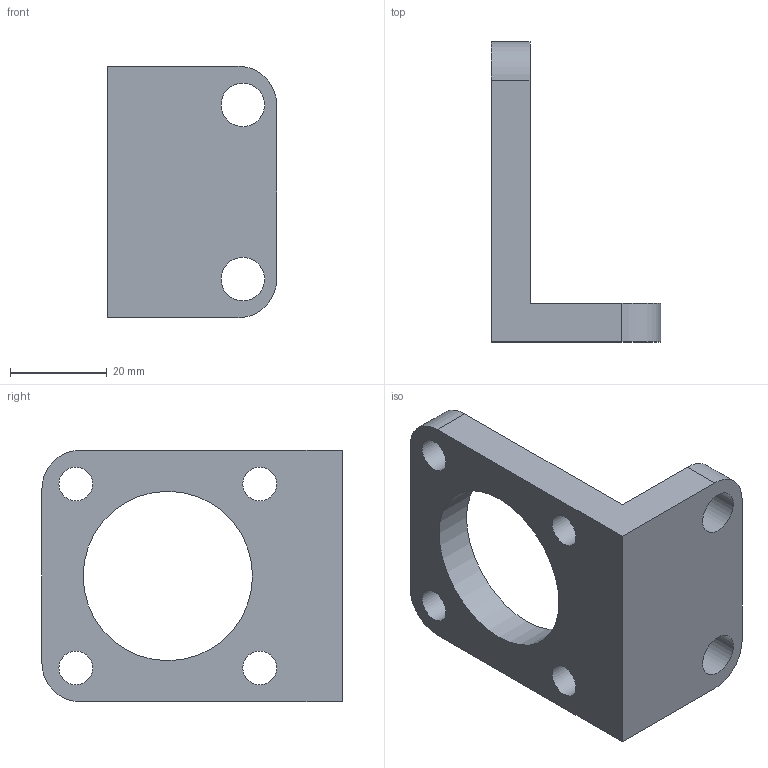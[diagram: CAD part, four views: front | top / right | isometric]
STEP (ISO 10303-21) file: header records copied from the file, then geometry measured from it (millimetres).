
FILE_DESCRIPTION((''),'2;1');
FILE_NAME('K:\A-Roberto\_Inventor\Rev.Librerie\FISSAGGI\1320_Ø_05F\STEP(1320_Ø_05F)\1320_40_05F.stp','2006-07-10T15:37:20',('rivolro1'),(''),'Autodesk Inventor 11','Autodesk Inventor 11','');
FILE_SCHEMA(('AUTOMOTIVE_DESIGN { 1 0 10303 214 1 1 1 1 }'));
Length unit declared in the file: millimetre
Products named in the file (1): 1320_40_05F
Bounding box: 35 x 62 x 52 mm (x, y, z)
Volume: 26638.4 mm3; surface area: 10841.3 mm2
Topology: 1 solids, 1 shells, 19 faces, 55 edges, 38 vertices
Faces by surface type: plane 8, cylinder 7, bspline 4
Full cylindrical faces by diameter (mm): 9 x2, 35 x1
Entity records: 675 total; most frequent: CARTESIAN_POINT 166, DIRECTION 98, ORIENTED_EDGE 88, EDGE_CURVE 44, EDGE_LOOP 40, AXIS2_PLACEMENT_3D 38, VERTEX_POINT 34, CIRCLE 22
